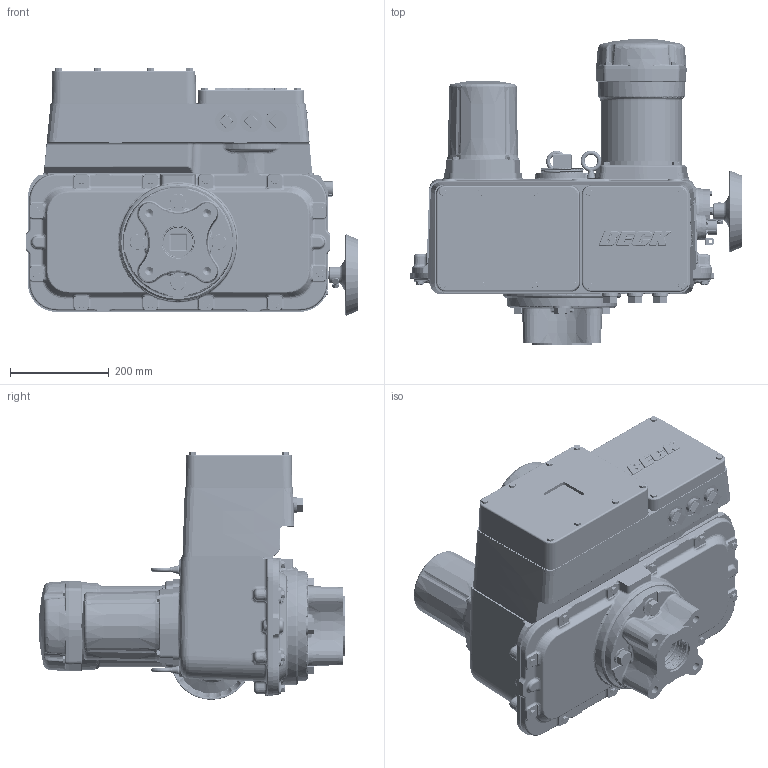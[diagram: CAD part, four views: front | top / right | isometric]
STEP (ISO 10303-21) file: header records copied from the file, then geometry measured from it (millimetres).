
FILE_DESCRIPTION (( 'STEP AP214' ), '1' );
FILE_NAME ('88-100 Actuator Shell (47-8810-00) With Configured Thrust Module.STEP', '2026-05-13T13:39:08', ( '' ), ( '' ), 'SwSTEP 2.0', 'SolidWorks 2022', '' );
FILE_SCHEMA (( 'AUTOMOTIVE_DESIGN' ));
Length unit declared in the file: inch
Products named in the file (15): 88-100 Actuator Shell (47-8810-00); 70-0319-61; 14-9400-41; 30-0329-69; 70-0338-60; 30-0336-25_30-0336-25; 70-0338-13; 14-9840-94_90025K456; 14-9588-41; 14-9988-47_14-9988-49; 88-100 Actuator Shell (47-8810-00) With Configured Thrust Module; 30-0307-92_30-0307-92; 14-9588-51_14-9588-51 (FA16); 14-9588-40; 14-9840-91_default
Assembly tree (20 placements, depth 3):
  70-0319-61
  70-0338-13
  88-100 Actuator Shell (47-8810-00) With Configured Thrust Module
    88-100 Actuator Shell (47-8810-00)
    14-9988-47_14-9988-49
      14-9588-51_14-9588-51 (FA16)
      14-9588-41
      14-9588-40
      14-9400-41  x2
      30-0329-69
      14-9840-91_default
      14-9840-94_90025K456  x2
      70-0338-60
      30-0336-25_30-0336-25  x4
      30-0307-92_30-0307-92  x4
Bounding box: 672.16 x 619.56 x 501.49 mm (x, y, z)
Volume: 23299796.2 mm3; surface area: 4097478.6 mm2
Topology: 150 solids, 150 shells, 14237 faces, 35761 edges, 22381 vertices
Faces by surface type: plane 6066, bspline 4120, cylinder 2202, cone 1115, torus 581, sphere 153
Full cylindrical faces by diameter (mm): 0.02 x1, 0.915 x1, 1.016 x1, 1.524 x8, 1.829 x1, 1.93 x1, 2.261 x1, 2.388 x1, 2.522 x1, 2.794 x1, 3.048 x8, 3.175 x10, 3.226 x1, 3.454 x10, 3.912 x2, 4.039 x23, 4.064 x4, 4.166 x22, 4.47 x1, 4.496 x1, 4.75 x10, 4.826 x17, 4.978 x1, 5 x6, 5.004 x1, 5.105 x17, 5.334 x5, 5.613 x6, 6.337 x2, 6.35 x7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
Entity records: 755167 total; most frequent: CARTESIAN_POINT 399510, ORIENTED_EDGE 66882, DIRECTION 50743, EDGE_CURVE 33441, VERTEX_POINT 21816, VECTOR 17019, LINE 17019, AXIS2_PLACEMENT_3D 16862
